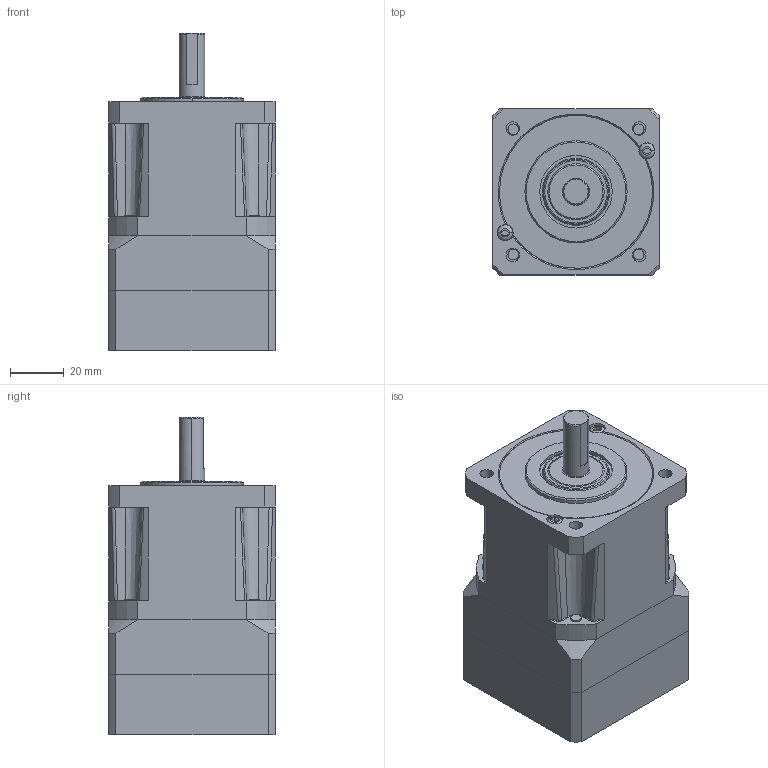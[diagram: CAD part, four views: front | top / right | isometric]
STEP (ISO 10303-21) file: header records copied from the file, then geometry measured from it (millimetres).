
FILE_DESCRIPTION((''),'2;1');
FILE_NAME('GEN_II_PX23_SINGLE_LONG_ADAPT','2008-11-20T',('aza7363'),(''),'PRO/ENGINEER BY PARAMETRIC TECHNOLOGY CORPORATION, 2006300','PRO/ENGINEER BY PARAMETRIC TECHNOLOGY CORPORATION, 2006300','');
FILE_SCHEMA(('CONFIG_CONTROL_DESIGN'));
Length unit declared in the file: millimetre
Products named in the file (1): GEN_II_PX23_SINGLE_LONG_ADAPT
Bounding box: 62 x 62 x 118.2 mm (x, y, z)
Surface area: 48708.9 mm2 (no closed solid volume)
Topology: 0 solids, 27 shells, 363 faces, 985 edges, 657 vertices
Faces by surface type: plane 146, cylinder 132, bspline 37, torus 26, cone 22
Entity records: 13204 total; most frequent: CARTESIAN_POINT 4090, DIRECTION 1929, ORIENTED_EDGE 1775, EDGE_CURVE 985, AXIS2_PLACEMENT_3D 743, VERTEX_POINT 657, VECTOR 443, LINE 443
